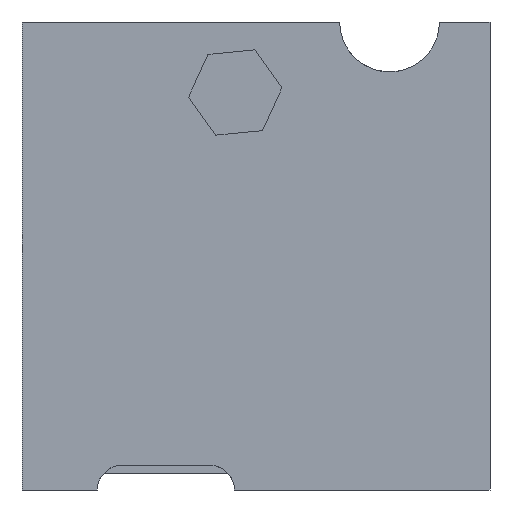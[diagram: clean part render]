
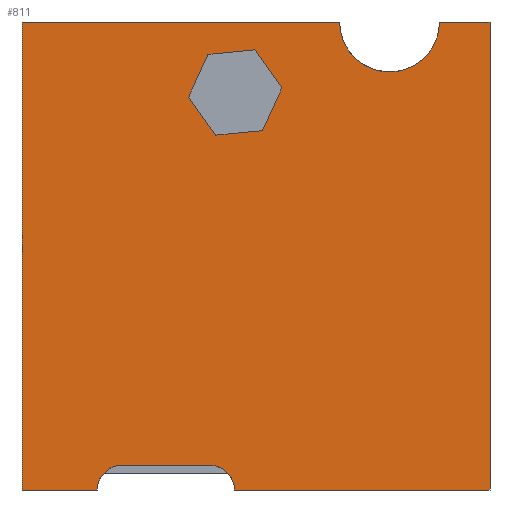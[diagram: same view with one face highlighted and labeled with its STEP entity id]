
A CAD part, front view. The second image highlights one B-rep face of the part: STEP entity #811.
In plain terms, the highlighted planar face has unit normal (0, -1, 0).
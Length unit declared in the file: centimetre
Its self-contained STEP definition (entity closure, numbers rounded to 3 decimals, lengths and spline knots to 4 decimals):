
#25 = VERTEX_POINT ( 'NONE', #1364 ) ;
#33 = ORIENTED_EDGE ( 'NONE', *, *, #36, .T. ) ;
#36 = EDGE_CURVE ( 'NONE', #1483, #1143, #1056, .T. ) ;
#39 = ORIENTED_EDGE ( 'NONE', *, *, #1374, .F. ) ;
#42 = VERTEX_POINT ( 'NONE', #438 ) ;
#44 = CARTESIAN_POINT ( 'NONE',  ( 1000., 0., 1000. ) ) ;
#64 = CARTESIAN_POINT ( 'NONE',  ( 414.2764, 0., 758.155 ) ) ;
#75 = CARTESIAN_POINT ( 'NONE',  ( 397.3272, 0., 930.6978 ) ) ;
#78 = CARTESIAN_POINT ( 'NONE',  ( 0., 0., 0. ) ) ;
#123 = EDGE_CURVE ( 'NONE', #429, #1586, #1494, .T. ) ;
#128 = CARTESIAN_POINT ( 'NONE',  ( 513.894, 0., 767.9407 ) ) ;
#143 = DIRECTION ( 'NONE',  ( 0., -1., 0. ) ) ;
#145 = DIRECTION ( 'NONE',  ( 0., 0., -1. ) ) ;
#157 = CIRCLE ( 'NONE', #1732, 52.9655 ) ;
#168 = EDGE_CURVE ( 'NONE', #1628, #834, #532, .T. ) ;
#169 = AXIS2_PLACEMENT_3D ( 'NONE', #1505, #1353, #996 ) ;
#179 = DIRECTION ( 'NONE',  ( -0.582, 0., 0.813 ) ) ;
#186 = DIRECTION ( 'NONE',  ( -0.995, 0., -0.098 ) ) ;
#194 = LINE ( 'NONE', #360, #361 ) ;
#216 = DIRECTION ( 'NONE',  ( -1., 0., 0. ) ) ;
#218 = EDGE_CURVE ( 'NONE', #1586, #25, #1447, .T. ) ;
#230 = VERTEX_POINT ( 'NONE', #483 ) ;
#243 = CARTESIAN_POINT ( 'NONE',  ( 401.0646, 0., 52.9655 ) ) ;
#249 = PLANE ( 'NONE',  #1611 ) ;
#272 = CARTESIAN_POINT ( 'NONE',  ( 401.0646, 0., 0. ) ) ;
#292 = VECTOR ( 'NONE', #635, 100. ) ;
#318 = LINE ( 'NONE', #1534, #423 ) ;
#320 = CARTESIAN_POINT ( 'NONE',  ( 555.2282, 0., 859.1049 ) ) ;
#337 = DIRECTION ( 'NONE',  ( 1., 0., 0. ) ) ;
#346 = DIRECTION ( 'NONE',  ( 0., 0., -1. ) ) ;
#355 = LINE ( 'NONE', #515, #807 ) ;
#360 = CARTESIAN_POINT ( 'NONE',  ( 496.9448, 0., 940.4834 ) ) ;
#361 = VECTOR ( 'NONE', #186, 100. ) ;
#390 = VECTOR ( 'NONE', #216, 100. ) ;
#413 = ORIENTED_EDGE ( 'NONE', *, *, #1579, .F. ) ;
#423 = VECTOR ( 'NONE', #444, 100. ) ;
#429 = VERTEX_POINT ( 'NONE', #128 ) ;
#438 = CARTESIAN_POINT ( 'NONE',  ( 1000., 0., 0. ) ) ;
#439 = CARTESIAN_POINT ( 'NONE',  ( 0., 0., 1000. ) ) ;
#441 = ORIENTED_EDGE ( 'NONE', *, *, #1774, .T. ) ;
#444 = DIRECTION ( 'NONE',  ( 1., 0., 0. ) ) ;
#464 = ORIENTED_EDGE ( 'NONE', *, *, #566, .F. ) ;
#483 = CARTESIAN_POINT ( 'NONE',  ( 454.03, 0., 0. ) ) ;
#515 = CARTESIAN_POINT ( 'NONE',  ( 0., 0., 1000. ) ) ;
#532 = CIRCLE ( 'NONE', #169, 106.6215 ) ;
#540 = EDGE_CURVE ( 'NONE', #1628, #812, #1687, .T. ) ;
#555 = CARTESIAN_POINT ( 'NONE',  ( 401.0646, 0., 52.9655 ) ) ;
#566 = EDGE_CURVE ( 'NONE', #1483, #834, #355, .T. ) ;
#626 = VERTEX_POINT ( 'NONE', #644 ) ;
#635 = DIRECTION ( 'NONE',  ( 1., 0., 0. ) ) ;
#637 = ORIENTED_EDGE ( 'NONE', *, *, #123, .F. ) ;
#640 = VECTOR ( 'NONE', #844, 100. ) ;
#644 = CARTESIAN_POINT ( 'NONE',  ( 160.6861, 0., 0. ) ) ;
#659 = ORIENTED_EDGE ( 'NONE', *, *, #1241, .T. ) ;
#704 = LINE ( 'NONE', #555, #390 ) ;
#727 = DIRECTION ( 'NONE',  ( -0.413, 0., -0.911 ) ) ;
#764 = LINE ( 'NONE', #1235, #858 ) ;
#765 = ORIENTED_EDGE ( 'NONE', *, *, #916, .F. ) ;
#766 = VECTOR ( 'NONE', #145, 100. ) ;
#775 = VERTEX_POINT ( 'NONE', #1012 ) ;
#800 = EDGE_LOOP ( 'NONE', ( #1589, #1617, #464, #33, #659, #1299, #1477, #765, #441, #1717 ) ) ;
#807 = VECTOR ( 'NONE', #337, 100. ) ;
#811 = ADVANCED_FACE ( 'NONE', ( #1005, #1624 ), #249, .F. ) ;
#812 = VERTEX_POINT ( 'NONE', #44 ) ;
#816 = EDGE_CURVE ( 'NONE', #1608, #775, #704, .T. ) ;
#834 = VERTEX_POINT ( 'NONE', #1456 ) ;
#840 = VERTEX_POINT ( 'NONE', #1649 ) ;
#844 = DIRECTION ( 'NONE',  ( 0.413, 0., 0.911 ) ) ;
#858 = VECTOR ( 'NONE', #1688, 100. ) ;
#880 = CARTESIAN_POINT ( 'NONE',  ( 0., 0., 1000. ) ) ;
#905 = LINE ( 'NONE', #1195, #985 ) ;
#916 = EDGE_CURVE ( 'NONE', #230, #1608, #1144, .T. ) ;
#985 = VECTOR ( 'NONE', #1184, 100. ) ;
#996 = DIRECTION ( 'NONE',  ( 0., 0., 1. ) ) ;
#1004 = CARTESIAN_POINT ( 'NONE',  ( 513.894, 0., 767.9407 ) ) ;
#1005 = FACE_BOUND ( 'NONE', #1733, .T. ) ;
#1007 = DIRECTION ( 'NONE',  ( 0.995, 0., 0.098 ) ) ;
#1012 = CARTESIAN_POINT ( 'NONE',  ( 213.6516, 0., 52.9655 ) ) ;
#1017 = CARTESIAN_POINT ( 'NONE',  ( 555.2282, 0., 859.1049 ) ) ;
#1022 = EDGE_CURVE ( 'NONE', #775, #626, #157, .T. ) ;
#1056 = LINE ( 'NONE', #1707, #766 ) ;
#1066 = DIRECTION ( 'NONE',  ( 1., 0., 0. ) ) ;
#1109 = CARTESIAN_POINT ( 'NONE',  ( 355.993, 0., 839.5336 ) ) ;
#1126 = EDGE_CURVE ( 'NONE', #2014, #1260, #905, .T. ) ;
#1143 = VERTEX_POINT ( 'NONE', #78 ) ;
#1144 = CIRCLE ( 'NONE', #1695, 52.9655 ) ;
#1184 = DIRECTION ( 'NONE',  ( 0.582, 0., -0.813 ) ) ;
#1195 = CARTESIAN_POINT ( 'NONE',  ( 355.993, 0., 839.5336 ) ) ;
#1203 = CARTESIAN_POINT ( 'NONE',  ( 892.0317, 0., 1000. ) ) ;
#1219 = VECTOR ( 'NONE', #1007, 100. ) ;
#1235 = CARTESIAN_POINT ( 'NONE',  ( 1000., 0., 1000. ) ) ;
#1241 = EDGE_CURVE ( 'NONE', #1143, #626, #318, .T. ) ;
#1255 = CARTESIAN_POINT ( 'NONE',  ( 213.6516, 0., 0. ) ) ;
#1260 = VERTEX_POINT ( 'NONE', #1715 ) ;
#1299 = ORIENTED_EDGE ( 'NONE', *, *, #1022, .F. ) ;
#1310 = CARTESIAN_POINT ( 'NONE',  ( 0., 0., 1000. ) ) ;
#1341 = DIRECTION ( 'NONE',  ( 0., 0., 1. ) ) ;
#1346 = LINE ( 'NONE', #64, #1219 ) ;
#1353 = DIRECTION ( 'NONE',  ( 0., 1., 0. ) ) ;
#1364 = CARTESIAN_POINT ( 'NONE',  ( 496.9448, 0., 940.4834 ) ) ;
#1374 = EDGE_CURVE ( 'NONE', #25, #840, #194, .T. ) ;
#1376 = ORIENTED_EDGE ( 'NONE', *, *, #1126, .F. ) ;
#1447 = LINE ( 'NONE', #320, #1745 ) ;
#1456 = CARTESIAN_POINT ( 'NONE',  ( 678.7888, 0., 1000. ) ) ;
#1477 = ORIENTED_EDGE ( 'NONE', *, *, #816, .F. ) ;
#1483 = VERTEX_POINT ( 'NONE', #880 ) ;
#1494 = LINE ( 'NONE', #1004, #640 ) ;
#1505 = CARTESIAN_POINT ( 'NONE',  ( 785.4103, 0., 1000. ) ) ;
#1534 = CARTESIAN_POINT ( 'NONE',  ( 0., 0., 0. ) ) ;
#1537 = DIRECTION ( 'NONE',  ( 0., -1., 0. ) ) ;
#1562 = LINE ( 'NONE', #1856, #292 ) ;
#1579 = EDGE_CURVE ( 'NONE', #840, #2014, #1983, .T. ) ;
#1586 = VERTEX_POINT ( 'NONE', #1017 ) ;
#1589 = ORIENTED_EDGE ( 'NONE', *, *, #540, .F. ) ;
#1592 = ORIENTED_EDGE ( 'NONE', *, *, #218, .F. ) ;
#1608 = VERTEX_POINT ( 'NONE', #243 ) ;
#1611 = AXIS2_PLACEMENT_3D ( 'NONE', #1310, #1793, #1341 ) ;
#1617 = ORIENTED_EDGE ( 'NONE', *, *, #168, .T. ) ;
#1624 = FACE_OUTER_BOUND ( 'NONE', #800, .T. ) ;
#1628 = VERTEX_POINT ( 'NONE', #1203 ) ;
#1649 = CARTESIAN_POINT ( 'NONE',  ( 397.3272, 0., 930.6978 ) ) ;
#1653 = EDGE_CURVE ( 'NONE', #1260, #429, #1346, .T. ) ;
#1687 = LINE ( 'NONE', #439, #1977 ) ;
#1688 = DIRECTION ( 'NONE',  ( 0., 0., -1. ) ) ;
#1695 = AXIS2_PLACEMENT_3D ( 'NONE', #272, #1537, #1995 ) ;
#1707 = CARTESIAN_POINT ( 'NONE',  ( 0., 0., 1000. ) ) ;
#1708 = EDGE_CURVE ( 'NONE', #812, #42, #764, .T. ) ;
#1715 = CARTESIAN_POINT ( 'NONE',  ( 414.2764, 0., 758.155 ) ) ;
#1717 = ORIENTED_EDGE ( 'NONE', *, *, #1708, .F. ) ;
#1732 = AXIS2_PLACEMENT_3D ( 'NONE', #1255, #143, #346 ) ;
#1733 = EDGE_LOOP ( 'NONE', ( #1592, #637, #1922, #1376, #413, #39 ) ) ;
#1745 = VECTOR ( 'NONE', #179, 100. ) ;
#1774 = EDGE_CURVE ( 'NONE', #230, #42, #1562, .T. ) ;
#1793 = DIRECTION ( 'NONE',  ( 0., 1., 0. ) ) ;
#1808 = VECTOR ( 'NONE', #727, 100. ) ;
#1856 = CARTESIAN_POINT ( 'NONE',  ( 0., 0., 0. ) ) ;
#1922 = ORIENTED_EDGE ( 'NONE', *, *, #1653, .F. ) ;
#1977 = VECTOR ( 'NONE', #1066, 100. ) ;
#1983 = LINE ( 'NONE', #75, #1808 ) ;
#1995 = DIRECTION ( 'NONE',  ( 0., 0., -1. ) ) ;
#2014 = VERTEX_POINT ( 'NONE', #1109 ) ;
